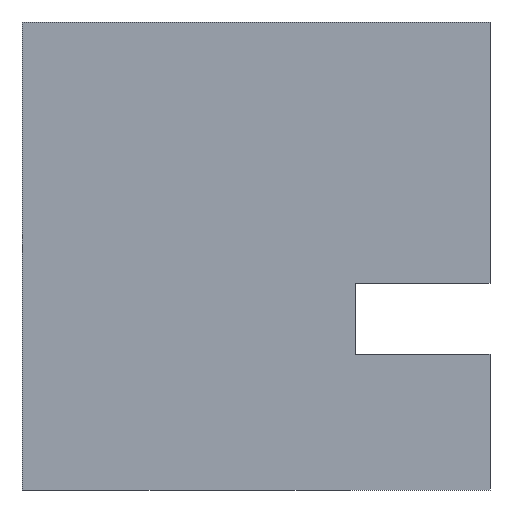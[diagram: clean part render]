
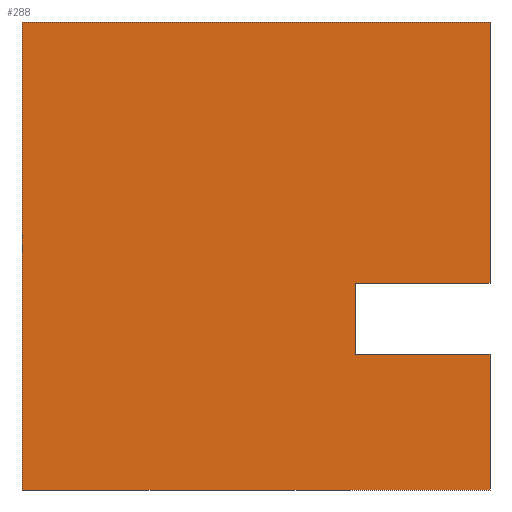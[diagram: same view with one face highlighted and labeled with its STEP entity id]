
A CAD part, left-side view. The second image highlights one B-rep face of the part: STEP entity #288.
In plain terms, the highlighted planar face has unit normal (-1, 0, 0).
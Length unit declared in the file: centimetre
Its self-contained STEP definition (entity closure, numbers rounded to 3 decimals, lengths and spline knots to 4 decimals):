
#1 = LINE ( 'NONE', #426, #656 ) ;
#4 = VECTOR ( 'NONE', #325, 100. ) ;
#21 = DIRECTION ( 'NONE',  ( 0., 1., 0. ) ) ;
#23 = VERTEX_POINT ( 'NONE', #229 ) ;
#33 = VECTOR ( 'NONE', #167, 100. ) ;
#40 = VERTEX_POINT ( 'NONE', #610 ) ;
#79 = CARTESIAN_POINT ( 'NONE',  ( 0., 0., 1000. ) ) ;
#81 = EDGE_CURVE ( 'NONE', #309, #40, #218, .T. ) ;
#85 = ORIENTED_EDGE ( 'NONE', *, *, #81, .F. ) ;
#93 = LINE ( 'NONE', #649, #485 ) ;
#105 = ORIENTED_EDGE ( 'NONE', *, *, #475, .F. ) ;
#135 = CARTESIAN_POINT ( 'NONE',  ( 0., 1000., 1000. ) ) ;
#139 = DIRECTION ( 'NONE',  ( 0., -1., 0. ) ) ;
#152 = VERTEX_POINT ( 'NONE', #694 ) ;
#157 = VERTEX_POINT ( 'NONE', #602 ) ;
#167 = DIRECTION ( 'NONE',  ( 0., 0., -1. ) ) ;
#195 = LINE ( 'NONE', #515, #246 ) ;
#218 = LINE ( 'NONE', #377, #4 ) ;
#229 = CARTESIAN_POINT ( 'NONE',  ( 0., 0., 289.8209 ) ) ;
#240 = CARTESIAN_POINT ( 'NONE',  ( 0., 1000., 1000. ) ) ;
#242 = DIRECTION ( 'NONE',  ( 0., 0., -1. ) ) ;
#245 = DIRECTION ( 'NONE',  ( 0., 0., -1. ) ) ;
#246 = VECTOR ( 'NONE', #139, 100. ) ;
#288 = ADVANCED_FACE ( 'NONE', ( #456 ), #613, .F. ) ;
#309 = VERTEX_POINT ( 'NONE', #509 ) ;
#314 = CARTESIAN_POINT ( 'NONE',  ( 0., 0., 441.7745 ) ) ;
#320 = DIRECTION ( 'NONE',  ( 0., 0., -1. ) ) ;
#325 = DIRECTION ( 'NONE',  ( 0., -1., 0. ) ) ;
#355 = LINE ( 'NONE', #314, #483 ) ;
#363 = DIRECTION ( 'NONE',  ( 0., 0., -1. ) ) ;
#371 = ORIENTED_EDGE ( 'NONE', *, *, #658, .T. ) ;
#377 = CARTESIAN_POINT ( 'NONE',  ( 0., 1000., 1000. ) ) ;
#386 = VERTEX_POINT ( 'NONE', #638 ) ;
#403 = DIRECTION ( 'NONE',  ( 1., 0., 0. ) ) ;
#404 = EDGE_CURVE ( 'NONE', #157, #590, #355, .T. ) ;
#426 = CARTESIAN_POINT ( 'NONE',  ( 0., 1000., 0. ) ) ;
#448 = LINE ( 'NONE', #79, #33 ) ;
#453 = EDGE_CURVE ( 'NONE', #513, #23, #195, .T. ) ;
#456 = FACE_OUTER_BOUND ( 'NONE', #458, .T. ) ;
#458 = EDGE_LOOP ( 'NONE', ( #476, #684, #105, #665, #520, #85, #642, #371 ) ) ;
#463 = DIRECTION ( 'NONE',  ( 0., -1., 0. ) ) ;
#475 = EDGE_CURVE ( 'NONE', #590, #513, #622, .T. ) ;
#476 = ORIENTED_EDGE ( 'NONE', *, *, #612, .F. ) ;
#483 = VECTOR ( 'NONE', #21, 100. ) ;
#485 = VECTOR ( 'NONE', #320, 100. ) ;
#498 = VECTOR ( 'NONE', #363, 100. ) ;
#509 = CARTESIAN_POINT ( 'NONE',  ( 0., 1000., 1000. ) ) ;
#512 = EDGE_CURVE ( 'NONE', #309, #386, #631, .T. ) ;
#513 = VERTEX_POINT ( 'NONE', #575 ) ;
#514 = AXIS2_PLACEMENT_3D ( 'NONE', #240, #403, #242 ) ;
#515 = CARTESIAN_POINT ( 'NONE',  ( 0., 0., 289.8209 ) ) ;
#520 = ORIENTED_EDGE ( 'NONE', *, *, #704, .F. ) ;
#575 = CARTESIAN_POINT ( 'NONE',  ( 0., 286.5251, 289.8209 ) ) ;
#590 = VERTEX_POINT ( 'NONE', #652 ) ;
#602 = CARTESIAN_POINT ( 'NONE',  ( 0., 0., 441.7745 ) ) ;
#610 = CARTESIAN_POINT ( 'NONE',  ( 0., 0., 1000. ) ) ;
#612 = EDGE_CURVE ( 'NONE', #23, #152, #93, .T. ) ;
#613 = PLANE ( 'NONE',  #514 ) ;
#622 = LINE ( 'NONE', #626, #644 ) ;
#626 = CARTESIAN_POINT ( 'NONE',  ( 0., 286.5251, 289.8209 ) ) ;
#631 = LINE ( 'NONE', #135, #498 ) ;
#638 = CARTESIAN_POINT ( 'NONE',  ( 0., 1000., 0. ) ) ;
#642 = ORIENTED_EDGE ( 'NONE', *, *, #512, .T. ) ;
#644 = VECTOR ( 'NONE', #245, 100. ) ;
#649 = CARTESIAN_POINT ( 'NONE',  ( 0., 0., 1000. ) ) ;
#652 = CARTESIAN_POINT ( 'NONE',  ( 0., 286.5251, 441.7745 ) ) ;
#656 = VECTOR ( 'NONE', #463, 100. ) ;
#658 = EDGE_CURVE ( 'NONE', #386, #152, #1, .T. ) ;
#665 = ORIENTED_EDGE ( 'NONE', *, *, #404, .F. ) ;
#684 = ORIENTED_EDGE ( 'NONE', *, *, #453, .F. ) ;
#694 = CARTESIAN_POINT ( 'NONE',  ( 0., 0., 0. ) ) ;
#704 = EDGE_CURVE ( 'NONE', #40, #157, #448, .T. ) ;
